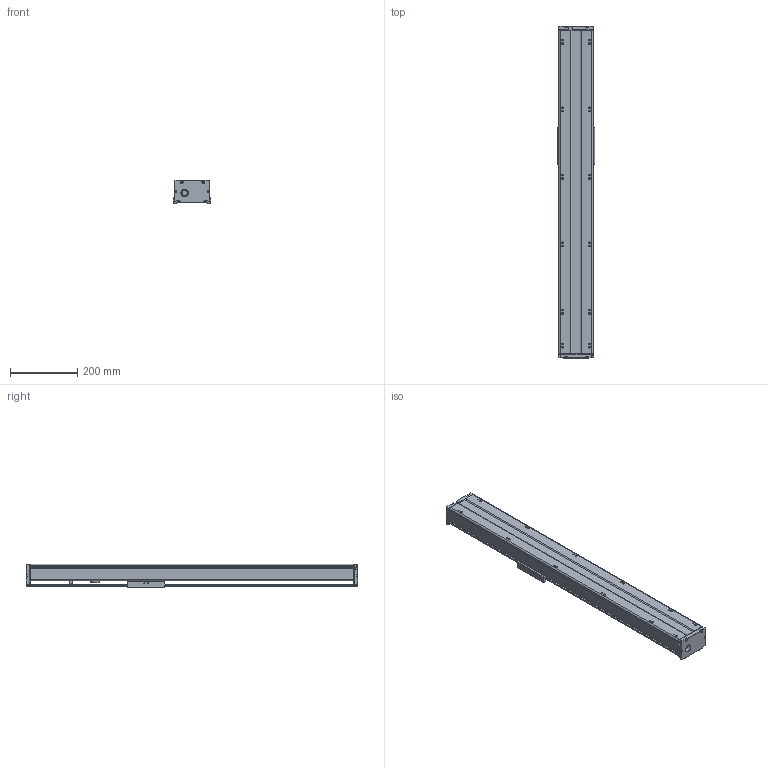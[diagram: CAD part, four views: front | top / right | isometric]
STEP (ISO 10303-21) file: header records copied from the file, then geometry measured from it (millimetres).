
FILE_DESCRIPTION(/* description */ (''),/* implementation_level */ '2;1');
FILE_NAME(/* name */ 'TKA100-600A1FI_asm1.stp',/* time_stamp */ '2017-02-21T08:54:15+08:00',/* author */ (''),/* organization */ (''),/* preprocessor_version */ 'ST-DEVELOPER v15',/* originating_system */ 'SIEMENS PLM Software NX 8.5',/* authorisation */ '');
FILE_SCHEMA (('AUTOMOTIVE_DESIGN { 1 0 10303 214 3 1 1 1 }'));
Length unit declared in the file: millimetre
Products named in the file (3): 200-02; 200-01; TKA100-600A1FI_asm1_stp
Assembly tree (2 placements, depth 2):
  TKA100-600A1FI_asm1_stp
    200-01
    200-02
Bounding box: 110 x 984 x 71 mm (x, y, z)
Volume: 2104101.6 mm3; surface area: 681378.5 mm2
Topology: 2 solids, 9 shells, 859 faces, 2220 edges, 1407 vertices
Faces by surface type: plane 359, cylinder 291, cone 149, torus 34, bspline 26
Full cylindrical faces by diameter (mm): 2.5 x4, 2.6 x8, 3.3 x8, 3.4 x4, 3.8 x4, 4.2 x21, 4.3 x4, 4.5 x4, 5 x1, 5.5 x24, 6.6 x4, 8 x5, 9 x4, 10 x12, 11 x4, 12 x7, 15.3 x1, 16 x1, 22 x1, 24 x1, 28 x5, 30 x1
Entity records: 30542 total; most frequent: CARTESIAN_POINT 10564, DIRECTION 4150, ORIENTED_EDGE 3874, EDGE_CURVE 1937, AXIS2_PLACEMENT_3D 1604, VERTEX_POINT 1332, EDGE_LOOP 1153, LINE 942
